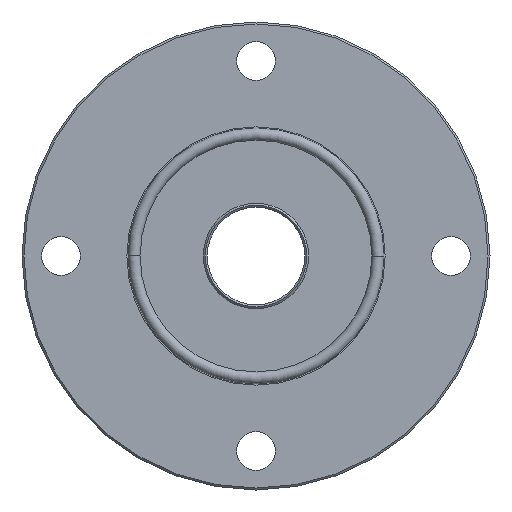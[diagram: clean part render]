
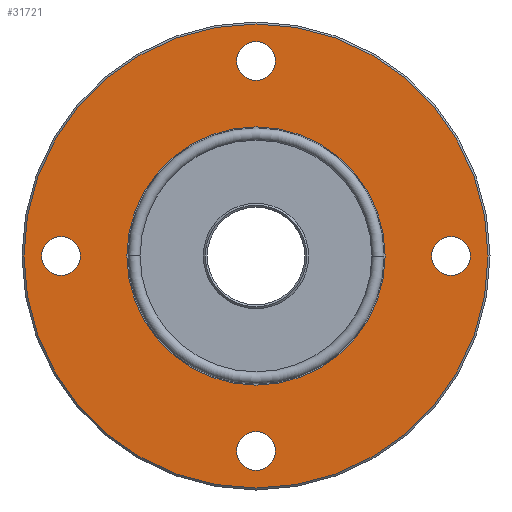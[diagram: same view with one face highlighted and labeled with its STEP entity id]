
A CAD part, left-side view. The second image highlights one B-rep face of the part: STEP entity #31721.
In plain terms, the highlighted planar face has unit normal (-1, 0, 0).
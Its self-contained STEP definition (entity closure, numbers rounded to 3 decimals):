
#4096 = CARTESIAN_POINT ( 'NONE',  ( 0., 59.5, 0. ) ) ;
#4097 = CARTESIAN_POINT ( 'NONE',  ( 0., -59.5, 0. ) ) ;
#4098 = DIRECTION ( 'NONE',  ( 0., -1., 0. ) ) ;
#4099 = DIRECTION ( 'NONE',  ( -1., 0., 0. ) ) ;
#4100 = CARTESIAN_POINT ( 'NONE',  ( 0., 0., 0. ) ) ;
#4101 = AXIS2_PLACEMENT_3D ( 'NONE', #4100, #4099, #4098 ) ;
#4106 = CIRCLE ( 'NONE', #4101, 59.5 ) ;
#8351 = EDGE_CURVE ( 'NONE', #8354, #8356, #4106, .T. ) ;
#8354 = VERTEX_POINT ( 'NONE', #4097 ) ;
#8356 = VERTEX_POINT ( 'NONE', #4096 ) ;
#16282 = DIRECTION ( 'NONE',  ( 0., -1., 0. ) ) ;
#16283 = DIRECTION ( 'NONE',  ( -1., 0., 0. ) ) ;
#16284 = CARTESIAN_POINT ( 'NONE',  ( 0., 0., 0. ) ) ;
#16285 = AXIS2_PLACEMENT_3D ( 'NONE', #16284, #16283, #16282 ) ;
#16286 = CIRCLE ( 'NONE', #16285, 33.1 ) ;
#16325 = CARTESIAN_POINT ( 'NONE',  ( 0., -33.1, 0. ) ) ;
#16408 = CARTESIAN_POINT ( 'NONE',  ( 0., 33.1, 0. ) ) ;
#21846 = CARTESIAN_POINT ( 'NONE',  ( 0., 5., -50. ) ) ;
#21850 = DIRECTION ( 'NONE',  ( 0., 0., 1. ) ) ;
#21851 = DIRECTION ( 'NONE',  ( -1., 0., 0. ) ) ;
#21852 = CARTESIAN_POINT ( 'NONE',  ( 0., 0., -50. ) ) ;
#21853 = AXIS2_PLACEMENT_3D ( 'NONE', #21852, #21851, #21850 ) ;
#21854 = CIRCLE ( 'NONE', #21853, 5. ) ;
#21856 = CARTESIAN_POINT ( 'NONE',  ( 0., -5., -50. ) ) ;
#21879 = DIRECTION ( 'NONE',  ( 0., 1., 0. ) ) ;
#21880 = DIRECTION ( 'NONE',  ( -1., 0., 0. ) ) ;
#21881 = CARTESIAN_POINT ( 'NONE',  ( 0., -50., 0. ) ) ;
#21882 = AXIS2_PLACEMENT_3D ( 'NONE', #21881, #21880, #21879 ) ;
#21883 = CIRCLE ( 'NONE', #21882, 5. ) ;
#21889 = CARTESIAN_POINT ( 'NONE',  ( 0., -55., 0. ) ) ;
#21900 = CIRCLE ( 'NONE', #21914, 5. ) ;
#21901 = CARTESIAN_POINT ( 'NONE',  ( 0., -5., 50. ) ) ;
#21910 = DIRECTION ( 'NONE',  ( 0., 0., -1. ) ) ;
#21911 = DIRECTION ( 'NONE',  ( -1., 0., 0. ) ) ;
#21914 = AXIS2_PLACEMENT_3D ( 'NONE', #21915, #21911, #21910 ) ;
#21915 = CARTESIAN_POINT ( 'NONE',  ( 0., 0., 50. ) ) ;
#21948 = CIRCLE ( 'NONE', #22001, 5. ) ;
#21988 = CARTESIAN_POINT ( 'NONE',  ( 0., 45., 0. ) ) ;
#21997 = CARTESIAN_POINT ( 'NONE',  ( 0., 55., 0. ) ) ;
#21998 = DIRECTION ( 'NONE',  ( 0., -1., 0. ) ) ;
#21999 = DIRECTION ( 'NONE',  ( -1., 0., 0. ) ) ;
#22000 = CARTESIAN_POINT ( 'NONE',  ( 0., 50., 0. ) ) ;
#22001 = AXIS2_PLACEMENT_3D ( 'NONE', #22000, #21999, #21998 ) ;
#22069 = CARTESIAN_POINT ( 'NONE',  ( 0., -45., 0. ) ) ;
#22094 = CARTESIAN_POINT ( 'NONE',  ( 0., 5., 50. ) ) ;
#27574 = VERTEX_POINT ( 'NONE', #21856 ) ;
#27576 = EDGE_CURVE ( 'NONE', #27578, #27574, #21854, .T. ) ;
#27578 = VERTEX_POINT ( 'NONE', #21846 ) ;
#27589 = VERTEX_POINT ( 'NONE', #21889 ) ;
#27592 = EDGE_CURVE ( 'NONE', #27679, #27589, #21883, .T. ) ;
#27610 = EDGE_CURVE ( 'NONE', #27684, #27612, #21900, .T. ) ;
#27612 = VERTEX_POINT ( 'NONE', #21901 ) ;
#27639 = EDGE_CURVE ( 'NONE', #27640, #27645, #21948, .T. ) ;
#27640 = VERTEX_POINT ( 'NONE', #21997 ) ;
#27645 = VERTEX_POINT ( 'NONE', #21988 ) ;
#27679 = VERTEX_POINT ( 'NONE', #22069 ) ;
#27684 = VERTEX_POINT ( 'NONE', #22094 ) ;
#29144 = EDGE_CURVE ( 'NONE', #29208, #29146, #16286, .T. ) ;
#29146 = VERTEX_POINT ( 'NONE', #16325 ) ;
#29208 = VERTEX_POINT ( 'NONE', #16408 ) ;
#30402 = CARTESIAN_POINT ( 'NONE',  ( 0., 0., -50. ) ) ;
#30415 = PLANE ( 'NONE',  #30473 ) ;
#30416 = FACE_BOUND ( 'NONE', #31713, .T. ) ;
#30417 = FACE_BOUND ( 'NONE', #31786, .T. ) ;
#30418 = FACE_BOUND ( 'NONE', #31782, .T. ) ;
#30419 = FACE_BOUND ( 'NONE', #31778, .T. ) ;
#30420 = FACE_BOUND ( 'NONE', #31726, .T. ) ;
#30421 = FACE_OUTER_BOUND ( 'NONE', #31722, .T. ) ;
#30432 = DIRECTION ( 'NONE',  ( 0., 0., 1. ) ) ;
#30433 = DIRECTION ( 'NONE',  ( -1., 0., 0. ) ) ;
#30434 = AXIS2_PLACEMENT_3D ( 'NONE', #30402, #30433, #30432 ) ;
#30435 = CIRCLE ( 'NONE', #30434, 5. ) ;
#30465 = DIRECTION ( 'NONE',  ( 0., -1., 0. ) ) ;
#30466 = DIRECTION ( 'NONE',  ( -1., 0., 0. ) ) ;
#30467 = CARTESIAN_POINT ( 'NONE',  ( 0., 0., 0. ) ) ;
#30468 = AXIS2_PLACEMENT_3D ( 'NONE', #30467, #30466, #30465 ) ;
#30469 = CIRCLE ( 'NONE', #30468, 59.5 ) ;
#30470 = DIRECTION ( 'NONE',  ( 0., -1., 0. ) ) ;
#30471 = DIRECTION ( 'NONE',  ( -1., 0., 0. ) ) ;
#30472 = CARTESIAN_POINT ( 'NONE',  ( 0., 0., 0. ) ) ;
#30473 = AXIS2_PLACEMENT_3D ( 'NONE', #30472, #30471, #30470 ) ;
#31711 = ORIENTED_EDGE ( 'NONE', *, *, #31712, .F. ) ;
#31712 = EDGE_CURVE ( 'NONE', #27574, #27578, #30435, .T. ) ;
#31713 = EDGE_LOOP ( 'NONE', ( #31765, #31767 ) ) ;
#31721 = ADVANCED_FACE ( 'NONE', ( #30421, #30420, #30419, #30418, #30417, #30416 ), #30415, .T. ) ;
#31722 = EDGE_LOOP ( 'NONE', ( #31723, #31725 ) ) ;
#31723 = ORIENTED_EDGE ( 'NONE', *, *, #31724, .T. ) ;
#31724 = EDGE_CURVE ( 'NONE', #8356, #8354, #30469, .T. ) ;
#31725 = ORIENTED_EDGE ( 'NONE', *, *, #8351, .T. ) ;
#31726 = EDGE_LOOP ( 'NONE', ( #31727, #31777 ) ) ;
#31727 = ORIENTED_EDGE ( 'NONE', *, *, #31776, .F. ) ;
#31764 = ORIENTED_EDGE ( 'NONE', *, *, #27576, .F. ) ;
#31765 = ORIENTED_EDGE ( 'NONE', *, *, #31766, .F. ) ;
#31766 = EDGE_CURVE ( 'NONE', #27645, #27640, #37897, .T. ) ;
#31767 = ORIENTED_EDGE ( 'NONE', *, *, #27639, .F. ) ;
#31776 = EDGE_CURVE ( 'NONE', #29146, #29208, #37936, .T. ) ;
#31777 = ORIENTED_EDGE ( 'NONE', *, *, #29144, .F. ) ;
#31778 = EDGE_LOOP ( 'NONE', ( #31779, #31781 ) ) ;
#31779 = ORIENTED_EDGE ( 'NONE', *, *, #31780, .F. ) ;
#31780 = EDGE_CURVE ( 'NONE', #27612, #27684, #37931, .T. ) ;
#31781 = ORIENTED_EDGE ( 'NONE', *, *, #27610, .F. ) ;
#31782 = EDGE_LOOP ( 'NONE', ( #31783, #31785 ) ) ;
#31783 = ORIENTED_EDGE ( 'NONE', *, *, #31784, .F. ) ;
#31784 = EDGE_CURVE ( 'NONE', #27589, #27679, #37926, .T. ) ;
#31785 = ORIENTED_EDGE ( 'NONE', *, *, #27592, .F. ) ;
#31786 = EDGE_LOOP ( 'NONE', ( #31711, #31764 ) ) ;
#37893 = DIRECTION ( 'NONE',  ( 0., -1., 0. ) ) ;
#37894 = DIRECTION ( 'NONE',  ( -1., 0., 0. ) ) ;
#37895 = CARTESIAN_POINT ( 'NONE',  ( 0., 50., 0. ) ) ;
#37896 = AXIS2_PLACEMENT_3D ( 'NONE', #37895, #37894, #37893 ) ;
#37897 = CIRCLE ( 'NONE', #37896, 5. ) ;
#37922 = DIRECTION ( 'NONE',  ( 0., 1., 0. ) ) ;
#37923 = DIRECTION ( 'NONE',  ( -1., 0., 0. ) ) ;
#37924 = CARTESIAN_POINT ( 'NONE',  ( 0., -50., 0. ) ) ;
#37925 = AXIS2_PLACEMENT_3D ( 'NONE', #37924, #37923, #37922 ) ;
#37926 = CIRCLE ( 'NONE', #37925, 5. ) ;
#37927 = DIRECTION ( 'NONE',  ( 0., 0., -1. ) ) ;
#37928 = DIRECTION ( 'NONE',  ( -1., 0., 0. ) ) ;
#37929 = CARTESIAN_POINT ( 'NONE',  ( 0., 0., 50. ) ) ;
#37930 = AXIS2_PLACEMENT_3D ( 'NONE', #37929, #37928, #37927 ) ;
#37931 = CIRCLE ( 'NONE', #37930, 5. ) ;
#37932 = DIRECTION ( 'NONE',  ( 0., -1., 0. ) ) ;
#37933 = DIRECTION ( 'NONE',  ( -1., 0., 0. ) ) ;
#37934 = CARTESIAN_POINT ( 'NONE',  ( 0., 0., 0. ) ) ;
#37935 = AXIS2_PLACEMENT_3D ( 'NONE', #37934, #37933, #37932 ) ;
#37936 = CIRCLE ( 'NONE', #37935, 33.1 ) ;
